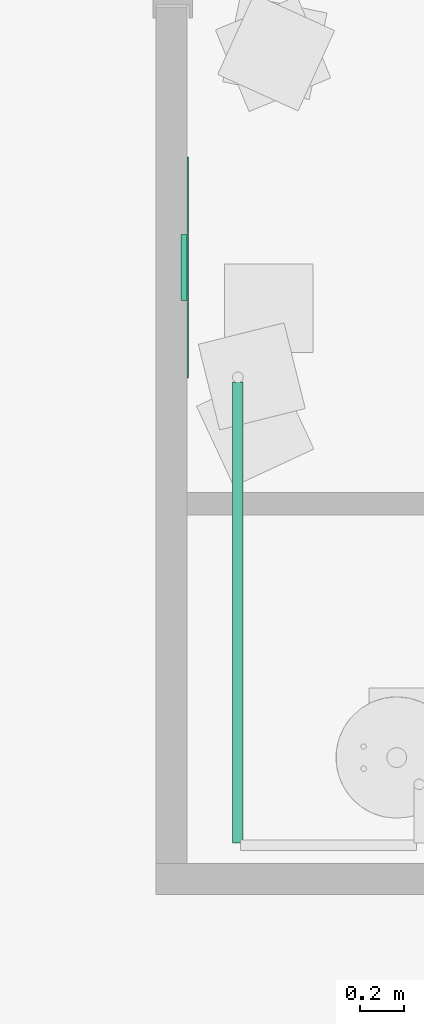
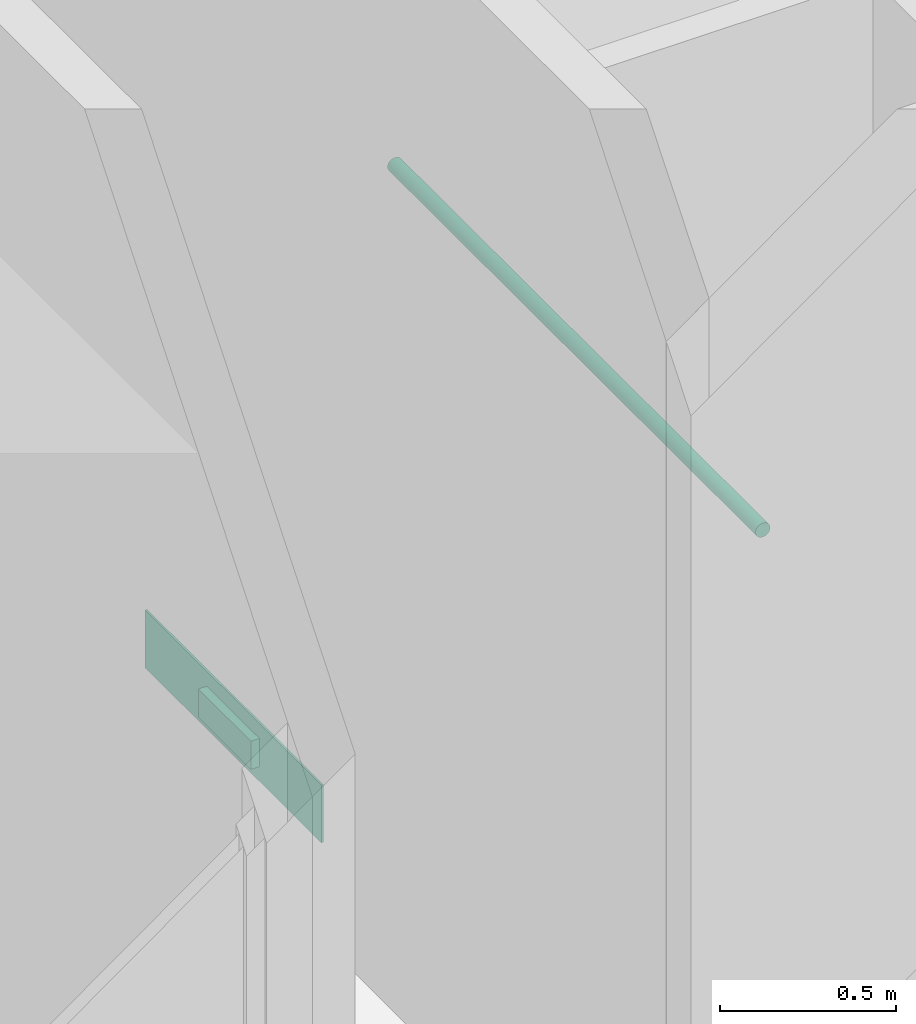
# One storey, part 28 of 69: 1 air terminal, 1 pipe segment.
"""IFC4 building model written with IfcOpenShell, lengths in centimetres."""

from ifc_helpers import new_model, entity, si_unit, converted_unit, derived_unit, direction, frame, origin, place, context, subcontext, project, spatial, arc, indexed_curve, outline, extrude, source, transform, mapped, material, constituent, constituent_set, type_object, type_shapes, element, save


model = new_model("IFC4")

# Units and contexts
model_context = context("Model", 3, precision=0.001, world=origin(), true_north=direction((6.123233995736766e-17, 1.0)))
body_context = subcontext(model_context, "Body", "Model", "MODEL_VIEW")
ifc_project = project(units=[si_unit("LENGTHUNIT", "METRE", prefix="CENTI"), si_unit("AREAUNIT", "SQUARE_METRE"), si_unit("VOLUMEUNIT", "CUBIC_METRE"), derived_unit("THERMALTRANSMITTANCEUNIT", [(si_unit("MASSUNIT", "GRAM", prefix="KILO"), 1), (si_unit("THERMODYNAMICTEMPERATUREUNIT", "KELVIN"), -1), (si_unit("TIMEUNIT", "SECOND"), -3)]), converted_unit("PLANEANGLEUNIT", "DEGREE", entity("IfcPlaneAngleMeasure", 0.017453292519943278), si_unit("PLANEANGLEUNIT", "RADIAN"), dimensions=[0, 0, 0, 0, 0, 0, 0]), derived_unit("MASSDENSITYUNIT", [(si_unit("MASSUNIT", "GRAM", prefix="KILO"), 1), (si_unit("LENGTHUNIT", "METRE"), -3)]), derived_unit("VAPORPERMEABILITYUNIT", [(si_unit("LENGTHUNIT", "METRE"), -1), (si_unit("TIMEUNIT", "SECOND"), 1)]), derived_unit("USERDEFINED", [(si_unit("MASSUNIT", "GRAM", prefix="KILO"), 1), (si_unit("TIMEUNIT", "SECOND"), -3), (si_unit("LENGTHUNIT", "METRE"), 3), (si_unit("ELECTRICCURRENTUNIT", "AMPERE"), -2)]), derived_unit("SPECIFICHEATCAPACITYUNIT", [(si_unit("THERMODYNAMICTEMPERATUREUNIT", "KELVIN"), -1), (si_unit("LENGTHUNIT", "METRE"), 2), (si_unit("TIMEUNIT", "SECOND"), -2)]), derived_unit("THERMALCONDUCTANCEUNIT", [(si_unit("MASSUNIT", "GRAM", prefix="KILO"), 1), (si_unit("THERMODYNAMICTEMPERATUREUNIT", "KELVIN"), -1), (si_unit("TIMEUNIT", "SECOND"), -3), (si_unit("LENGTHUNIT", "METRE"), 1)]), si_unit("PRESSUREUNIT", "PASCAL"), derived_unit("MODULUSOFELASTICITYUNIT", [(si_unit("MASSUNIT", "GRAM", prefix="KILO"), 1), (si_unit("LENGTHUNIT", "METRE"), -1), (si_unit("TIMEUNIT", "SECOND"), -2)]), derived_unit("THERMALEXPANSIONCOEFFICIENTUNIT", [(si_unit("THERMODYNAMICTEMPERATUREUNIT", "KELVIN"), -1)])], contexts=[model_context])

# Site, building, storey, space
site_placement = place(None, origin())
site = spatial("IfcSite", under=ifc_project, at=site_placement, Name="Default", CompositionType="ELEMENT")
building_placement = place(site_placement, origin())
building = spatial("IfcBuilding", under=site, at=building_placement, Name="IDS Escape Game Building", CompositionType="ELEMENT")
storey_placement = place(building_placement, origin())
storey = spatial("IfcBuildingStorey", under=building, at=storey_placement, Name="00_Ground Floor", CompositionType="ELEMENT", Elevation=0.0)
space_placement = place(storey_placement, origin())
space = spatial("IfcSpace", under=storey, at=space_placement, Name="25", CompositionType="ELEMENT", PredefinedType="NOTDEFINED")

# Air terminal
ifc_material_1 = material(Name="TB_LVC_referentievlak_00_gen_BERSnl", Category="BE Default")
ifc_constituent_1 = constituent(ifc_material_1, Name="TB_LVC_referentievlak_00_gen_BERSnl", Category="BE Default", fraction=0.00014157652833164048)
ifc_material_2 = material(Name="ARC_FME.h2_staal_00_gen_BERSnl", Category="h - metaal")
ifc_constituent_2 = constituent(ifc_material_2, Name="ARC_FME.h2_staal_00_gen_BERSnl", Category="h - metaal", fraction=0.9998584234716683)
ifc_constituent_set_1 = constituent_set(constituents=[ifc_constituent_1, ifc_constituent_2])
ifc_constituent_3 = constituent(ifc_material_1, Name="BE Referentievlak", Category="BE Default", fraction=0.00014157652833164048)
ifc_constituent_4 = constituent(ifc_material_2, Name="Terminals", Category="h - metaal", fraction=0.9998584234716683)
ifc_constituent_set_2 = constituent_set(constituents=[ifc_constituent_3, ifc_constituent_4])
air_terminal_type = type_object("IfcAirTerminalType", Name="TB_57_AIR_FB_aanzuigrooster - 1 rechthoekige aansluiting - calculated flow_gen_BERSnl:Air Terminal - Exhaust", PredefinedType="GRILLE", material=ifc_constituent_set_2)
shared_shape = source(origin(), body_context, "Body", "SweptSolid", [
    extrude(outline(indexed_curve([(-0.5, -2.0290176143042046e-15), (6.8507733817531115e-16, -0.5000000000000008), (0.5, 2.0290176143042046e-15), (-5.361679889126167e-16, 0.49999999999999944)], segments=[arc(1, 2, 3), arc(3, 4, 1)], self_intersect=False)), frame((0.0, 0.0, 0.0), z_axis=(1.7453292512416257e-05, 0.0, 1.0), x_axis=(0.0, 1.0, 0.0)), (0.0, 0.0, 1.0), 0.09999999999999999),
    extrude(outline(indexed_curve([(-14.900000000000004, -4.9), (14.900000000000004, -4.9), (14.900000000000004, 4.9), (-14.900000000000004, 4.9), (-14.900000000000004, -4.9)], self_intersect=False)), frame((-4.886921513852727e-05, 0.0, -2.7999999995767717)), (0.0, 0.0, 1.0), 2.7999999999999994),
    extrude(outline(indexed_curve([(-50.0, -10.0), (50.0, -10.0), (50.0, 10.0), (-50.0, 10.0), (-50.0, -10.0)], self_intersect=False)), frame((0.0, 0.0, 0.0), z_axis=(0.0, 0.0, 1.0), x_axis=(-1.0, 0.0, 0.0)), (0.0, 0.0, 1.0), 0.6999999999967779),
])
type_shapes(air_terminal_type, [shared_shape])
air_terminal_placement = place(space_placement, frame((2221.0, 2197.0, 24.0), z_axis=(1.0, 0.0, 0.0), x_axis=(0.0, 1.0, 0.0)))
element("IfcAirTerminal", 1, at=air_terminal_placement, inside=space, type_object=air_terminal_type, material=ifc_constituent_set_1, Name="TB_57_AIR_FB_aanzuigrooster - 1 rechthoekige aansluiting - calculated flow_gen_BERSnl:Air Terminal - Exhaust", ObjectType="TB_57_AIR_FB_aanzuigrooster - 1 rechthoekige aansluiting - calculated flow_gen_BERSnl:Air Terminal - Exhaust", PredefinedType="GRILLE", context=body_context, shape_type="MappedRepresentation", body=[
    mapped(shared_shape, transform((0.0, 0.0, 0.0), scale=1.0)),
])

# Pipe segment
pipe_segment_type = type_object("IfcPipeSegmentType", Name="Pipe Types:Piping Aluminum", PredefinedType="NOTDEFINED")
pipe_segment_placement = place(storey_placement, origin())
element("IfcPipeSegment", 2, at=pipe_segment_placement, inside=storey, type_object=pipe_segment_type, Name="Pipe Types:Piping Aluminum", ObjectType="Pipe Types:Piping Aluminum", PredefinedType="NOTDEFINED", context=body_context, shape_type="SweptSolid", body=[
    extrude(outline(indexed_curve([(2.412999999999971, 0.0), (1.7062486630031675, 1.7062486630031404), (0.0, 2.412999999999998), (-1.7062486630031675, 1.7062486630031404), (-2.412999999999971, 2.7071678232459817e-14), (-1.7062486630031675, -1.7062486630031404), (0.0, -2.412999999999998), (1.7062486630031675, -1.7062486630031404)], segments=[arc(1, 2, 3), arc(3, 4, 5), arc(5, 6, 7), arc(7, 8, 1)], self_intersect=False)), frame((2244.0467168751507, 1936.3648279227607, 242.0), z_axis=(0.0, 1.0, 0.0), x_axis=(1.0, 0.0, 0.0)), (0.0, 0.0, 1.0), 208.80000000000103),
])

save(model, "model.ifc")
